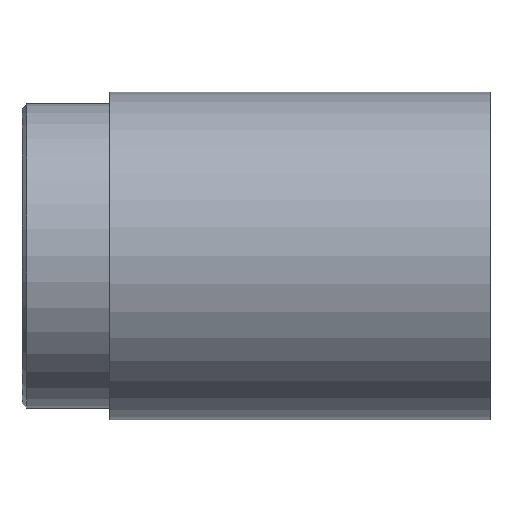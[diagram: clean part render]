
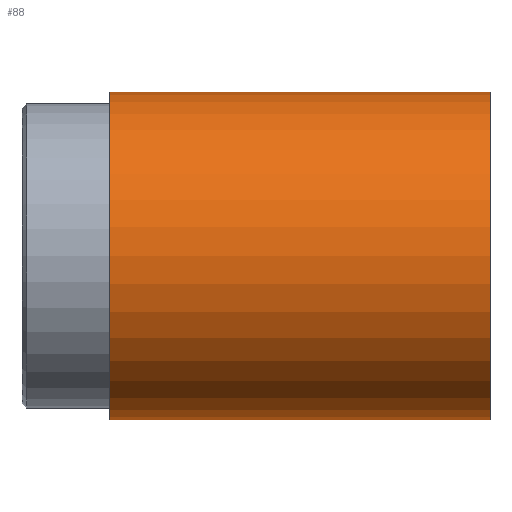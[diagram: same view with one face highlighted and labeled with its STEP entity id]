
A CAD part, top view. The second image highlights one B-rep face of the part: STEP entity #88.
In plain terms, the highlighted cylindrical face has radius 28 mm (diameter 56 mm), a partial arc.
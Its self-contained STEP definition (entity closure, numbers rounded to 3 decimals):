
#4 = EDGE_LOOP ( 'NONE', ( #371, #345, #308, #372 ) ) ;
#27 = CARTESIAN_POINT ( 'NONE',  ( 0., -28., 0. ) ) ;
#28 = LINE ( 'NONE', #29, #30 ) ;
#29 = CARTESIAN_POINT ( 'NONE',  ( 0., -28., 0. ) ) ;
#30 = VECTOR ( 'NONE', #31, 1000. ) ;
#31 = DIRECTION ( 'NONE',  ( 1., 0., 0. ) ) ;
#61 = FACE_OUTER_BOUND ( 'NONE', #4, .T. ) ;
#62 = CYLINDRICAL_SURFACE ( 'NONE', #63, 28. ) ;
#63 = AXIS2_PLACEMENT_3D ( 'NONE', #64, #65, #66 ) ;
#64 = CARTESIAN_POINT ( 'NONE',  ( 0., 0., 0. ) ) ;
#65 = DIRECTION ( 'NONE',  ( 1., 0., 0. ) ) ;
#66 = DIRECTION ( 'NONE',  ( 0., 1., 0. ) ) ;
#88 = ADVANCED_FACE ( 'NONE', ( #61 ), #62, .T. ) ;
#94 = CARTESIAN_POINT ( 'NONE',  ( -65., 28., 0. ) ) ;
#161 = CARTESIAN_POINT ( 'NONE',  ( 0., 28., 0. ) ) ;
#178 = CIRCLE ( 'NONE', #179, 28. ) ;
#179 = AXIS2_PLACEMENT_3D ( 'NONE', #180, #181, #182 ) ;
#180 = CARTESIAN_POINT ( 'NONE',  ( 0., 0., 0. ) ) ;
#181 = DIRECTION ( 'NONE',  ( 1., 0., 0. ) ) ;
#182 = DIRECTION ( 'NONE',  ( 0., 1., 0. ) ) ;
#189 = CIRCLE ( 'NONE', #190, 28. ) ;
#190 = AXIS2_PLACEMENT_3D ( 'NONE', #191, #192, #193 ) ;
#191 = CARTESIAN_POINT ( 'NONE',  ( -65., 0., 0. ) ) ;
#192 = DIRECTION ( 'NONE',  ( 1., 0., 0. ) ) ;
#193 = DIRECTION ( 'NONE',  ( 0., 1., 0. ) ) ;
#203 = CARTESIAN_POINT ( 'NONE',  ( -65., -28., 0. ) ) ;
#204 = LINE ( 'NONE', #205, #206 ) ;
#205 = CARTESIAN_POINT ( 'NONE',  ( 0., 28., 0. ) ) ;
#206 = VECTOR ( 'NONE', #207, 1000. ) ;
#207 = DIRECTION ( 'NONE',  ( 1., 0., 0. ) ) ;
#307 = VERTEX_POINT ( 'NONE', #161 ) ;
#308 = ORIENTED_EDGE ( 'NONE', *, *, #311, .F. ) ;
#311 = EDGE_CURVE ( 'NONE', #307, #324, #178, .T. ) ;
#318 = EDGE_CURVE ( 'NONE', #342, #307, #204, .T. ) ;
#324 = VERTEX_POINT ( 'NONE', #27 ) ;
#325 = EDGE_CURVE ( 'NONE', #366, #324, #28, .T. ) ;
#342 = VERTEX_POINT ( 'NONE', #94 ) ;
#345 = ORIENTED_EDGE ( 'NONE', *, *, #325, .T. ) ;
#364 = EDGE_CURVE ( 'NONE', #342, #366, #189, .T. ) ;
#366 = VERTEX_POINT ( 'NONE', #203 ) ;
#371 = ORIENTED_EDGE ( 'NONE', *, *, #364, .T. ) ;
#372 = ORIENTED_EDGE ( 'NONE', *, *, #318, .F. ) ;
